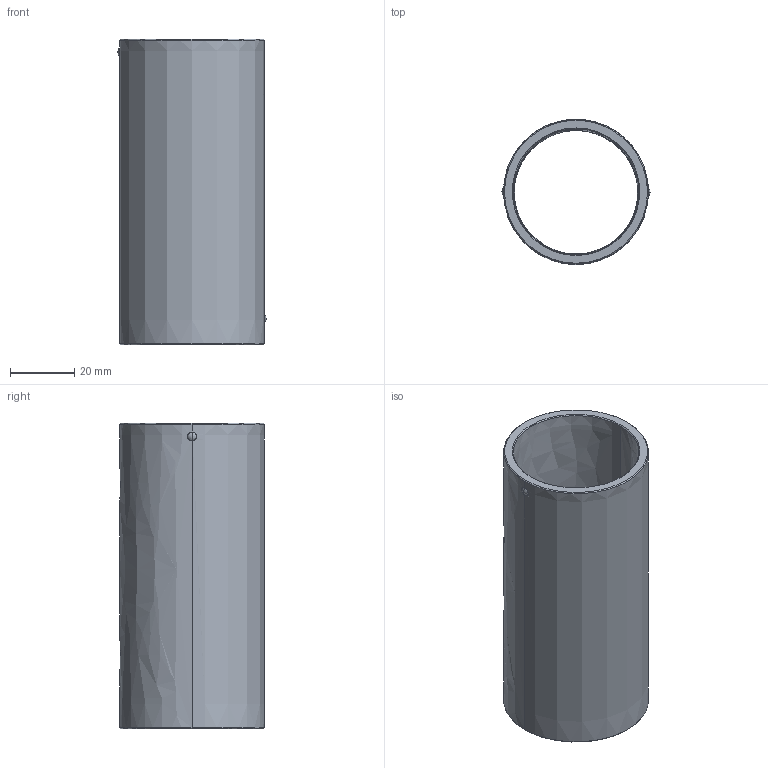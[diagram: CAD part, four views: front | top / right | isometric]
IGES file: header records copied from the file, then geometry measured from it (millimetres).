
Start section: START RECORD GO HERE.
Global section: file name: 730-38x95.igs; native system: DASSAULT SYSTEMES CATIA V5 R20 - www.3ds.com; preprocessor: CATIA Version 5 Release 20 ; author: Utente; organization: NB04-ASUS; date: 20210107.171006; units: millimetre
Bounding box: 45.99 x 45 x 95 mm (x, y, z)
Surface area: 26279.4 mm2 (no closed solid volume)
Topology: 0 solids, 0 shells, 44 faces, 240 edges, 240 vertices
Faces by surface type: revolution 36, plane 8
